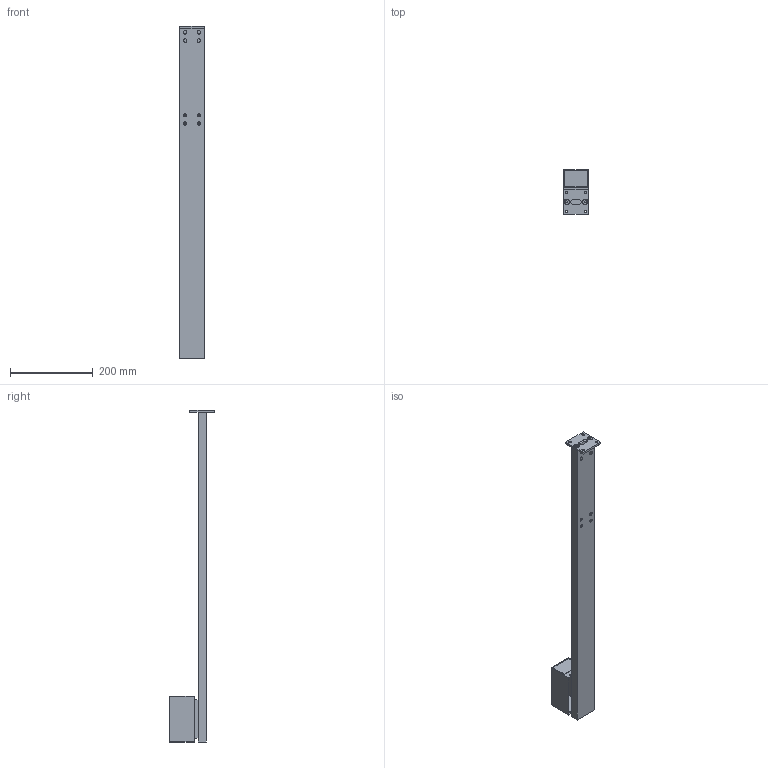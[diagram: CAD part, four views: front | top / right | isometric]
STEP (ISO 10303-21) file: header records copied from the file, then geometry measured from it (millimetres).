
FILE_DESCRIPTION((''),'2;1');
FILE_NAME('PRT0007','2025-06-30T10:13:25',('Piccioli'),(''),'CREO PARAMETRIC BY PTC INC, 2025010','CREO PARAMETRIC BY PTC INC, 2025010','');
FILE_SCHEMA(('CONFIG_CONTROL_DESIGN'));
Length unit declared in the file: millimetre
Products named in the file (1): PRT0007
Bounding box: 61.05 x 109 x 800.2 mm (x, y, z)
Surface area: 163139.3 mm2 (no closed solid volume)
Topology: 0 solids, 18 shells, 34 faces, 189 edges, 174 vertices
Faces by surface type: plane 25, cone 9
Entity records: 1996 total; most frequent: CARTESIAN_POINT 421, DIRECTION 326, ORIENTED_EDGE 222, EDGE_CURVE 189, VERTEX_POINT 174, VECTOR 112, LINE 112, AXIS2_PLACEMENT_3D 107
